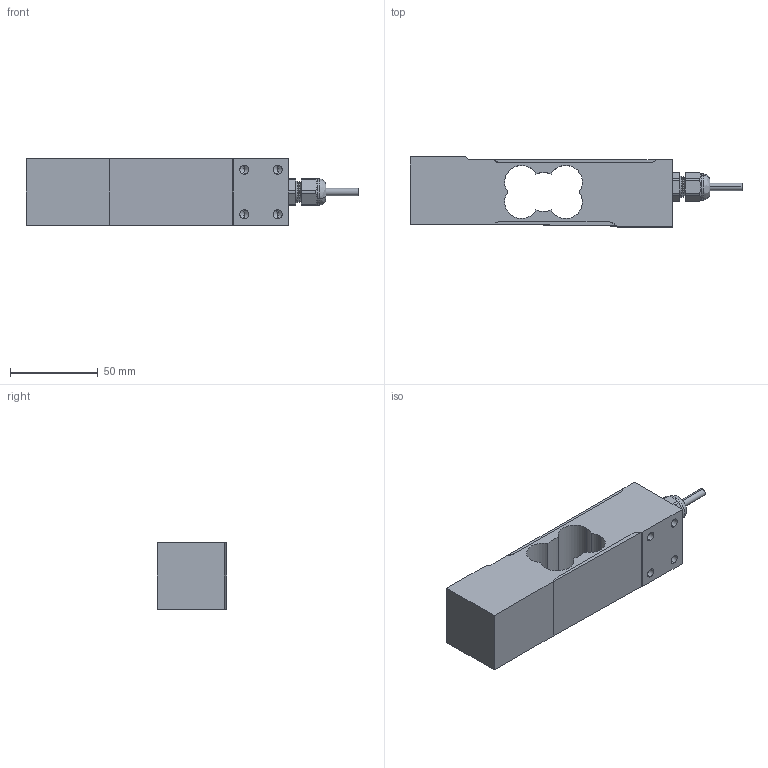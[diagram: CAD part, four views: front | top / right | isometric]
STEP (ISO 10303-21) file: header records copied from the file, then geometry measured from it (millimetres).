
FILE_DESCRIPTION (( 'STEP AP203' ), '1' );
FILE_NAME ('HI SP1-200KG.STEP', '2023-07-12T17:01:01', ( '' ), ( '' ), 'SwSTEP 2.0', 'SolidWorks 2020', '' );
FILE_SCHEMA (( 'CONFIG_CONTROL_DESIGN' ));
Length unit declared in the file: millimetre
Products named in the file (6): element PC1-200kg; 0019035; 0042290_Bottom; HI SP1-200KG; Part1^0020689; 0042290_Top
Assembly tree (5 placements, depth 2):
  HI SP1-200KG
    element PC1-200kg
    0042290_Top
    0042290_Bottom
    0019035
    Part1^0020689
Bounding box: 189.45 x 39.9 x 38 mm (x, y, z)
Volume: 169015.9 mm3; surface area: 48597.4 mm2
Topology: 6 solids, 6 shells, 215 faces, 496 edges, 287 vertices
Faces by surface type: cone 110, cylinder 57, plane 40, bspline 6, torus 2
Entity records: 6706 total; most frequent: CARTESIAN_POINT 1180, DIRECTION 1132, ORIENTED_EDGE 956, EDGE_CURVE 478, AXIS2_PLACEMENT_3D 451, VERTEX_POINT 287, CIRCLE 234, EDGE_LOOP 233
